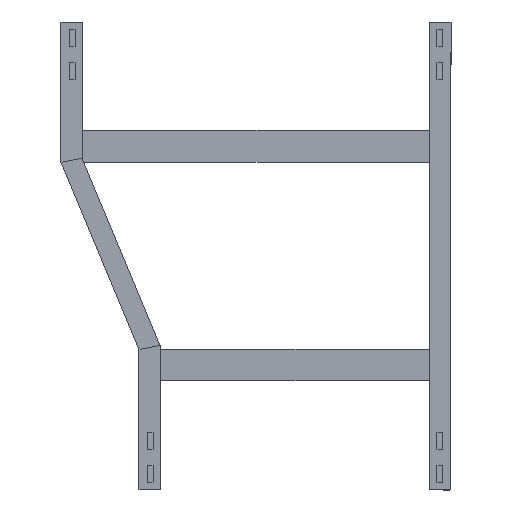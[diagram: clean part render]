
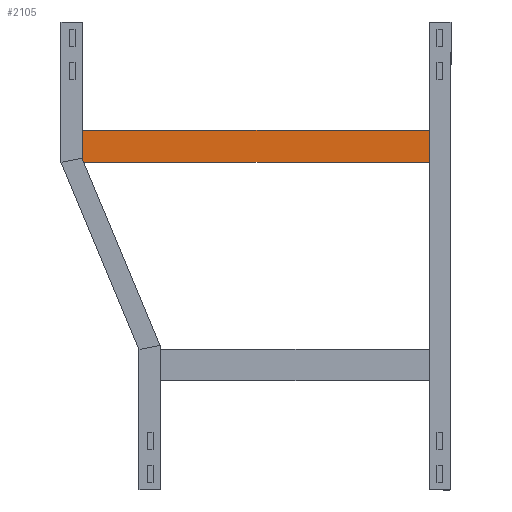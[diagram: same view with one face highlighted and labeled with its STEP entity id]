
A CAD part, front view. The second image highlights one B-rep face of the part: STEP entity #2105.
In plain terms, the highlighted planar face has unit normal (0, -1, 0).
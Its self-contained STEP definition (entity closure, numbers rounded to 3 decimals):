
#60 = DIRECTION ( 'NONE',  ( 0., 1., 0. ) ) ;
#75 = EDGE_CURVE ( 'NONE', #3427, #2321, #1179, .T. ) ;
#227 = CARTESIAN_POINT ( 'NONE',  ( 248., 0., -20.25 ) ) ;
#247 = CARTESIAN_POINT ( 'NONE',  ( 248., 0., 20.25 ) ) ;
#315 = AXIS2_PLACEMENT_3D ( 'NONE', #2579, #60, #3479 ) ;
#325 = CARTESIAN_POINT ( 'NONE',  ( -248., 0., -20.25 ) ) ;
#372 = LINE ( 'NONE', #1720, #3417 ) ;
#441 = ORIENTED_EDGE ( 'NONE', *, *, #75, .F. ) ;
#551 = VERTEX_POINT ( 'NONE', #2464 ) ;
#568 = VECTOR ( 'NONE', #3147, 1000. ) ;
#603 = ORIENTED_EDGE ( 'NONE', *, *, #2811, .F. ) ;
#644 = ORIENTED_EDGE ( 'NONE', *, *, #3568, .T. ) ;
#651 = DIRECTION ( 'NONE',  ( 0., 0., -1. ) ) ;
#652 = LINE ( 'NONE', #1480, #2507 ) ;
#1017 = VECTOR ( 'NONE', #2776, 1000. ) ;
#1099 = CARTESIAN_POINT ( 'NONE',  ( 248., 0., -20.25 ) ) ;
#1116 = EDGE_LOOP ( 'NONE', ( #3085, #441, #603, #644 ) ) ;
#1176 = DIRECTION ( 'NONE',  ( -1., 0., 0. ) ) ;
#1179 = LINE ( 'NONE', #1099, #1017 ) ;
#1258 = FACE_OUTER_BOUND ( 'NONE', #1116, .T. ) ;
#1480 = CARTESIAN_POINT ( 'NONE',  ( 248., 0., 20.25 ) ) ;
#1660 = EDGE_CURVE ( 'NONE', #551, #2321, #372, .T. ) ;
#1720 = CARTESIAN_POINT ( 'NONE',  ( -248., 0., 20.25 ) ) ;
#2105 = ADVANCED_FACE ( 'NONE', ( #1258 ), #2844, .F. ) ;
#2165 = CARTESIAN_POINT ( 'NONE',  ( 248., 0., 20.25 ) ) ;
#2321 = VERTEX_POINT ( 'NONE', #325 ) ;
#2464 = CARTESIAN_POINT ( 'NONE',  ( -248., 0., 20.25 ) ) ;
#2507 = VECTOR ( 'NONE', #1176, 1000. ) ;
#2554 = VERTEX_POINT ( 'NONE', #2165 ) ;
#2579 = CARTESIAN_POINT ( 'NONE',  ( 248., 0., 20.25 ) ) ;
#2763 = LINE ( 'NONE', #247, #568 ) ;
#2776 = DIRECTION ( 'NONE',  ( -1., 0., 0. ) ) ;
#2811 = EDGE_CURVE ( 'NONE', #2554, #3427, #2763, .T. ) ;
#2844 = PLANE ( 'NONE',  #315 ) ;
#3085 = ORIENTED_EDGE ( 'NONE', *, *, #1660, .T. ) ;
#3147 = DIRECTION ( 'NONE',  ( 0., 0., -1. ) ) ;
#3417 = VECTOR ( 'NONE', #651, 1000. ) ;
#3427 = VERTEX_POINT ( 'NONE', #227 ) ;
#3479 = DIRECTION ( 'NONE',  ( 0., 0., 1. ) ) ;
#3568 = EDGE_CURVE ( 'NONE', #2554, #551, #652, .T. ) ;
